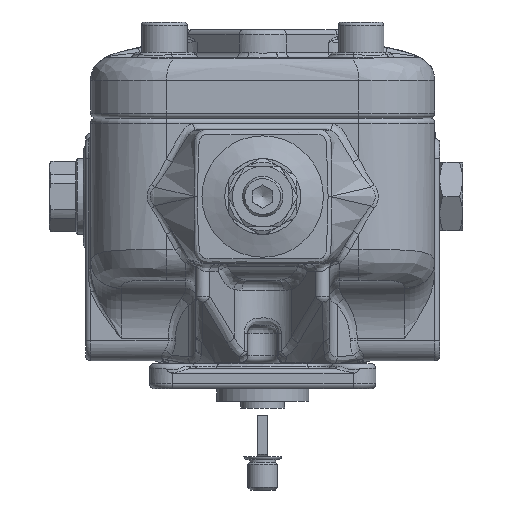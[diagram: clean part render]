
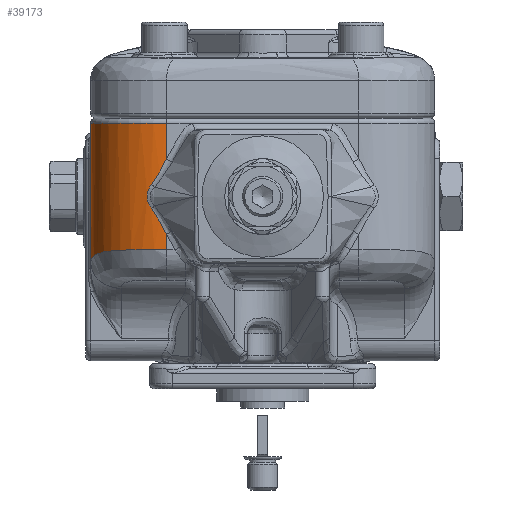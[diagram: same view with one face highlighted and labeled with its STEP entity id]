
A CAD part, front view. The second image highlights one B-rep face of the part: STEP entity #39173.
In plain terms, the highlighted cylindrical face has radius 30 mm (diameter 60 mm), a partial arc.
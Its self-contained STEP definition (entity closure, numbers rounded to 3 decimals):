
#3337=FACE_OUTER_BOUND('',#5682,.T.);
#5682=EDGE_LOOP('',(#28723,#28724,#28725,#28726,#28727,#28728,#28729,#28730));
#7940=CIRCLE('',#42134,30.);
#9558=B_SPLINE_CURVE_WITH_KNOTS('',3,(#62347,#62348,#62349,#62350,#62351,
#62352,#62353,#62354,#62355,#62356,#62357,#62358,#62359),.UNSPECIFIED.,
 .F.,.F.,(4,1,1,1,1,1,1,1,1,1,4),(-2.896,-2.585,-2.482,
-2.275,-2.068,-1.862,-1.551,
-1.241,-0.827,-0.414,0.),
 .UNSPECIFIED.);
#9706=B_SPLINE_CURVE_WITH_KNOTS('',3,(#66043,#66044,#66045,#66046,#66047),
 .UNSPECIFIED.,.F.,.F.,(4,1,4),(-1.207,-0.69,0.),
 .UNSPECIFIED.);
#9707=B_SPLINE_CURVE_WITH_KNOTS('',3,(#66049,#66050,#66051,#66052,#66053,
#66054,#66055),.UNSPECIFIED.,.F.,.F.,(4,1,1,1,4),(-1.056,-0.754,
-0.604,-0.302,0.),.UNSPECIFIED.);
#9708=B_SPLINE_CURVE_WITH_KNOTS('',3,(#66056,#66057,#66058,#66059,#66060),
 .UNSPECIFIED.,.F.,.F.,(4,1,4),(-1.207,-0.517,0.),
 .UNSPECIFIED.);
#11422=LINE('',#64589,#13619);
#11461=LINE('',#66039,#13658);
#11462=LINE('',#66061,#13659);
#13619=VECTOR('',#48965,10.);
#13658=VECTOR('',#49322,10.);
#13659=VECTOR('',#49325,10.);
#16007=VERTEX_POINT('',#62343);
#16008=VERTEX_POINT('',#62345);
#16212=VERTEX_POINT('',#64588);
#16234=VERTEX_POINT('',#64906);
#16304=VERTEX_POINT('',#66024);
#16305=VERTEX_POINT('',#66041);
#16306=VERTEX_POINT('',#66042);
#16307=VERTEX_POINT('',#66048);
#20208=EDGE_CURVE('',#16008,#16007,#9558,.T.);
#20549=EDGE_CURVE('',#16007,#16212,#11422,.T.);
#20598=EDGE_CURVE('',#16212,#16234,#7940,.T.);
#20734=EDGE_CURVE('',#16304,#16234,#11461,.T.);
#20735=EDGE_CURVE('',#16305,#16306,#9706,.T.);
#20736=EDGE_CURVE('',#16307,#16305,#9707,.T.);
#20737=EDGE_CURVE('',#16304,#16307,#9708,.T.);
#20738=EDGE_CURVE('',#16008,#16306,#11462,.T.);
#28723=ORIENTED_EDGE('',*,*,#20735,.F.);
#28724=ORIENTED_EDGE('',*,*,#20736,.F.);
#28725=ORIENTED_EDGE('',*,*,#20737,.F.);
#28726=ORIENTED_EDGE('',*,*,#20734,.T.);
#28727=ORIENTED_EDGE('',*,*,#20598,.F.);
#28728=ORIENTED_EDGE('',*,*,#20549,.F.);
#28729=ORIENTED_EDGE('',*,*,#20208,.F.);
#28730=ORIENTED_EDGE('',*,*,#20738,.T.);
#35627=CYLINDRICAL_SURFACE('',#42240,30.);
#39173=ADVANCED_FACE('',(#3337),#35627,.T.);
#42134=AXIS2_PLACEMENT_3D('',#64907,#49078,#49079);
#42240=AXIS2_PLACEMENT_3D('',#66040,#49323,#49324);
#48965=DIRECTION('',(0.,0.,1.));
#49078=DIRECTION('center_axis',(0.,0.,
1.));
#49079=DIRECTION('ref_axis',(-0.707,-0.707,0.));
#49322=DIRECTION('',(0.,0.,1.));
#49323=DIRECTION('center_axis',(0.,0.,1.));
#49324=DIRECTION('ref_axis',(-1.,0.,0.));
#49325=DIRECTION('',(0.,0.,1.));
#62343=CARTESIAN_POINT('',(-74.54,-40.004,-6.731));
#62345=CARTESIAN_POINT('',(-44.54,-70.004,-1.748));
#62347=CARTESIAN_POINT('Ctrl Pts',(-44.54,-70.004,
-1.748));
#62348=CARTESIAN_POINT('Ctrl Pts',(-46.277,-70.004,
-1.748));
#62349=CARTESIAN_POINT('Ctrl Pts',(-48.572,-69.805,
-1.747));
#62350=CARTESIAN_POINT('Ctrl Pts',(-51.974,-69.109,
-1.751));
#62351=CARTESIAN_POINT('Ctrl Pts',(-54.763,-68.28,
-1.76));
#62352=CARTESIAN_POINT('Ctrl Pts',(-57.955,-66.911,-1.793));
#62353=CARTESIAN_POINT('Ctrl Pts',(-61.453,-64.912,-1.871));
#62354=CARTESIAN_POINT('Ctrl Pts',(-65.124,-62.033,
-2.054));
#62355=CARTESIAN_POINT('Ctrl Pts',(-68.959,-57.779,-2.482));
#62356=CARTESIAN_POINT('Ctrl Pts',(-72.153,-52.356,
-3.313));
#62357=CARTESIAN_POINT('Ctrl Pts',(-74.139,-46.123,
-4.726));
#62358=CARTESIAN_POINT('Ctrl Pts',(-74.54,-41.975,-6.022));
#62359=CARTESIAN_POINT('Ctrl Pts',(-74.54,-40.004,-6.731));
#64588=CARTESIAN_POINT('',(-74.54,-40.004,48.252));
#64589=CARTESIAN_POINT('',(-74.54,-40.004,-14.748));
#64906=CARTESIAN_POINT('',(-44.54,-70.004,48.252));
#64907=CARTESIAN_POINT('Origin',(-44.54,-40.004,48.252));
#66024=CARTESIAN_POINT('',(-44.54,-70.004,34.144));
#66039=CARTESIAN_POINT('',(-44.54,-70.004,-14.748));
#66040=CARTESIAN_POINT('Origin',(-44.54,-40.004,-14.748));
#66041=CARTESIAN_POINT('',(-50.505,-69.405,14.452));
#66042=CARTESIAN_POINT('',(-44.54,-70.004,4.36));
#66043=CARTESIAN_POINT('Ctrl Pts',(-50.505,-69.405,
14.452));
#66044=CARTESIAN_POINT('Ctrl Pts',(-49.529,-69.603,
13.12));
#66045=CARTESIAN_POINT('Ctrl Pts',(-47.421,-69.916,
9.837));
#66046=CARTESIAN_POINT('Ctrl Pts',(-45.562,-70.004,6.366));
#66047=CARTESIAN_POINT('Ctrl Pts',(-44.54,-70.004,4.36));
#66048=CARTESIAN_POINT('',(-50.505,-69.405,24.053));
#66049=CARTESIAN_POINT('Ctrl Pts',(-50.505,-69.405,
24.053));
#66050=CARTESIAN_POINT('Ctrl Pts',(-51.074,-69.29,
23.276));
#66051=CARTESIAN_POINT('Ctrl Pts',(-51.816,-69.112,21.989));
#66052=CARTESIAN_POINT('Ctrl Pts',(-52.415,-68.951,
19.522));
#66053=CARTESIAN_POINT('Ctrl Pts',(-52.081,-69.045,16.941));
#66054=CARTESIAN_POINT('Ctrl Pts',(-51.074,-69.29,
15.229));
#66055=CARTESIAN_POINT('Ctrl Pts',(-50.505,-69.405,
14.452));
#66056=CARTESIAN_POINT('Ctrl Pts',(-44.54,-70.004,
34.144));
#66057=CARTESIAN_POINT('Ctrl Pts',(-45.562,-70.004,32.139));
#66058=CARTESIAN_POINT('Ctrl Pts',(-47.421,-69.916,
28.667));
#66059=CARTESIAN_POINT('Ctrl Pts',(-49.529,-69.603,
25.385));
#66060=CARTESIAN_POINT('Ctrl Pts',(-50.505,-69.405,24.053));
#66061=CARTESIAN_POINT('',(-44.54,-70.004,-14.748));
